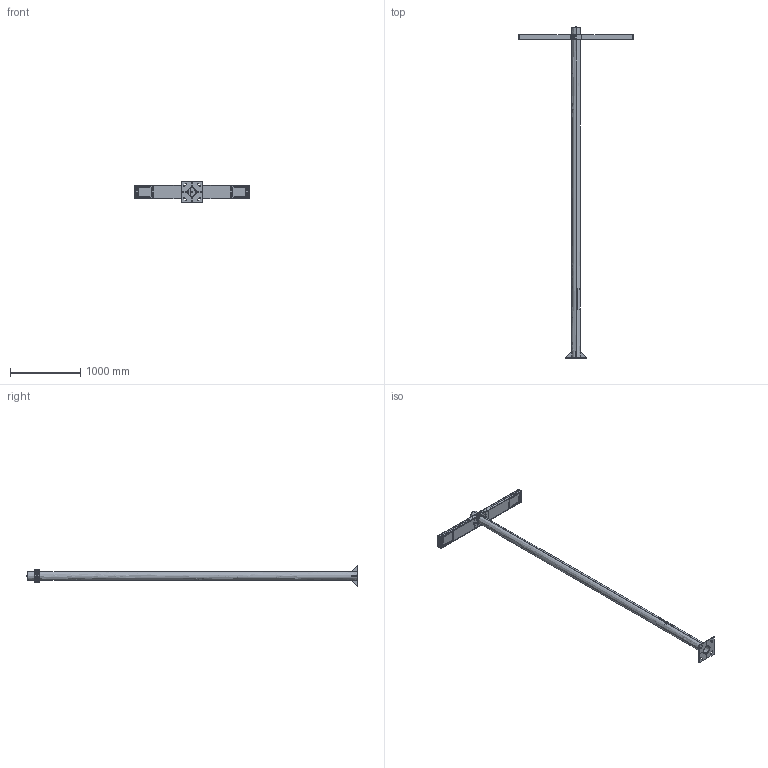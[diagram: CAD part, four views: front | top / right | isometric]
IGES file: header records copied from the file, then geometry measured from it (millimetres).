
Start section: SolidWorks IGES file using analytic representation for surfaces
Global section: file name: C:\SANTACOLE_PDM\Proyectos Catálogo\PROD-P08-042 -- RAMA LED\6_Técnico comercial\3D WEB\FAROLA RAMA LED 4.7M 2 LUMINARIA.IGS; native system: SolidWorks 2013; preprocessor: SolidWorks 2013; author: MarioV; date: 150330.174320; units: millimetre
Bounding box: 1624 x 4724.5 x 300 mm (x, y, z)
Volume: 9854459.9 mm3; surface area: 5935750.5 mm2
Topology: 51 solids, 51 shells, 5734 faces, 15582 edges, 10008 vertices
Faces by surface type: plane 4179, revolution 1097, bspline 458
